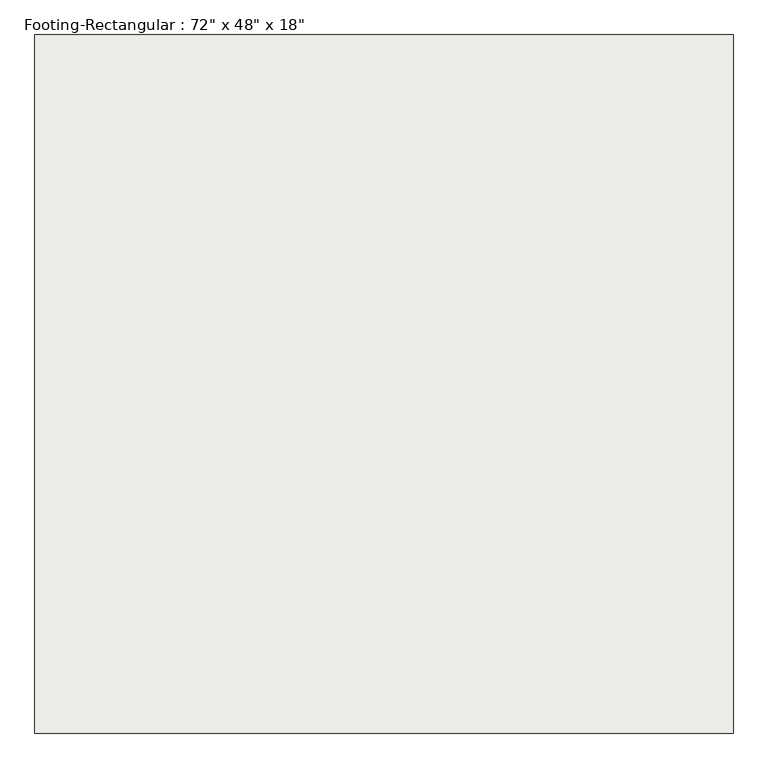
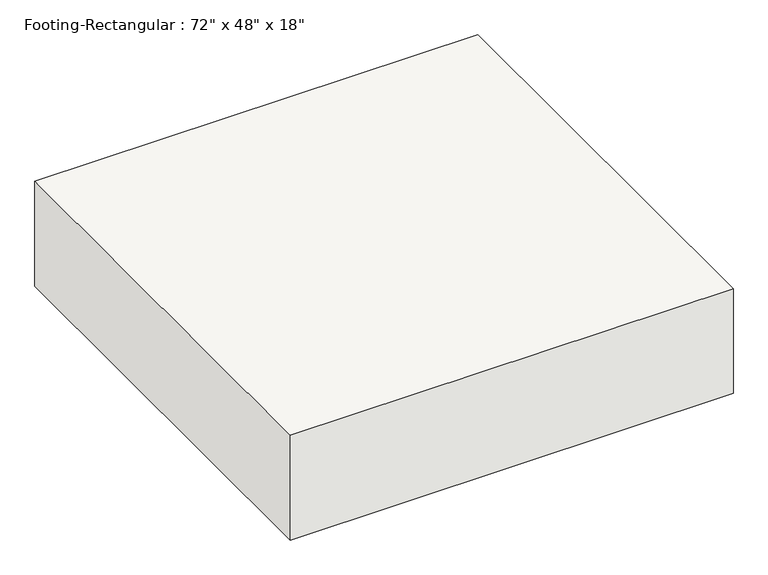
"""IFC4 building model written with IfcOpenShell, lengths in millimetres: slab geometry."""

from ifc_helpers import new_model, si_unit, frame, origin, place, context, project, spatial, polyline, outline, extrude, source, transform, mapped, element, save


def slab_6d6a3403(model_context):
    return source(origin(), model_context, "Body", "SweptSolid", [
        extrude(outline(polyline([(914.4, 914.4), (914.4, -914.4), (-914.4, -914.4), (-914.4, 914.4), (914.4, 914.4)])), frame((0.0, 0.0, -457.2), z_axis=(0.0, 0.0, 1.0), x_axis=(1.0, 0.0, 0.0)), (0.0, 0.0, 1.0), 457.2),
    ])


if __name__ == "__main__":
    model = new_model("IFC4")
    model_context = context("Model", 3, world=origin())
    ifc_project = project(units=[si_unit("LENGTHUNIT", "METRE", prefix="MILLI")], contexts=[model_context])
    site = spatial("IfcSite", under=ifc_project)
    building = spatial("IfcBuilding", under=site)
    placement = place(None, origin())
    slab_shape = slab_6d6a3403(model_context)
    element("IfcSlab", 1, ObjectType="Footing-Rectangular : 72\" x 48\" x 18\"", at=placement, inside=building, context=model_context, shape_type="MappedRepresentation", body=[
        mapped(slab_shape, transform((0.0, 0.0, 0.0), x_axis=(1.0, 0.0, 0.0), y_axis=(0.0, 1.0, 0.0), z_axis=(0.0, 0.0, 1.0))),
    ])
    save(model, "model.ifc")
